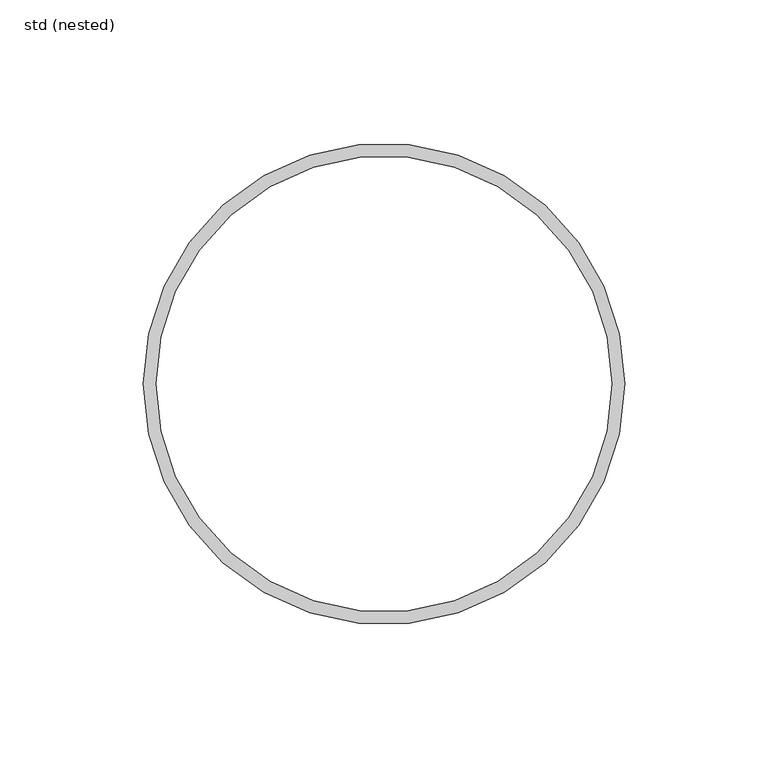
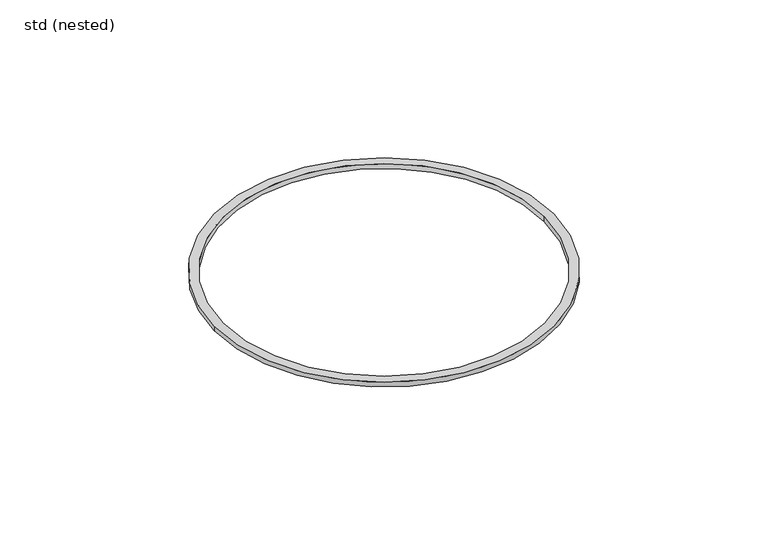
"""IFC4 building model written with IfcOpenShell, lengths in millimetres: pipe fitting geometry, ZZZ_do not use_PIF_GEN_WPB_GM-X (compound) pipe seal_ACO : std (nested)."""

from ifc_helpers import new_model, si_unit, point, frame, origin, origin_2d, place, context, project, spatial, circle_curve, trimmed, segment, composite_curve, outline, extrude, source, transform, mapped, element, save


def std_nested_9446fb41(model_context):
    return source(origin(), model_context, "Body", "SweptSolid", [
        extrude(outline(composite_curve([segment(trimmed(circle_curve(origin_2d(), 84.0), [point((84.0, 0.0))], [point((-84.0, 0.0))], False, "CARTESIAN"), True, "CONTINUOUS"), segment(trimmed(circle_curve(origin_2d(), 84.0), [point((-84.0, 0.0))], [point((84.0, 0.0))], False, "CARTESIAN"), True, "CONTINUOUS")], self_intersect=False), holes=[composite_curve([segment(trimmed(circle_curve(origin_2d(), 79.5), [point((79.5, 0.0))], [point((-79.5, 0.0))], True, "CARTESIAN"), True, "CONTINUOUS"), segment(trimmed(circle_curve(origin_2d(), 79.5), [point((-79.5, 0.0))], [point((79.5, 0.0))], True, "CARTESIAN"), True, "CONTINUOUS")], self_intersect=False)]), frame((0.0, 0.0, -82.5), z_axis=(0.0, 0.0, 1.0), x_axis=(1.0, 0.0, 0.0)), (0.0, 0.0, 1.0), 2.5),
    ])


if __name__ == "__main__":
    model = new_model("IFC4")
    model_context = context("Model", 3, world=origin())
    ifc_project = project(units=[si_unit("LENGTHUNIT", "METRE", prefix="MILLI")], contexts=[model_context])
    site = spatial("IfcSite", under=ifc_project)
    building = spatial("IfcBuilding", under=site)
    placement = place(None, origin())
    std_nested_shape = std_nested_9446fb41(model_context)
    element("IfcPipeFitting", 1, ObjectType="ZZZ_do not use_PIF_GEN_WPB_GM-X (compound) pipe seal_ACO : std (nested)", at=placement, inside=building, context=model_context, shape_type="MappedRepresentation", body=[
        mapped(std_nested_shape, transform((0.0, 0.0, 0.0), x_axis=(1.0, 0.0, 0.0), y_axis=(0.0, 1.0, 0.0), z_axis=(0.0, 0.0, 1.0))),
    ])
    save(model, "model.ifc")
